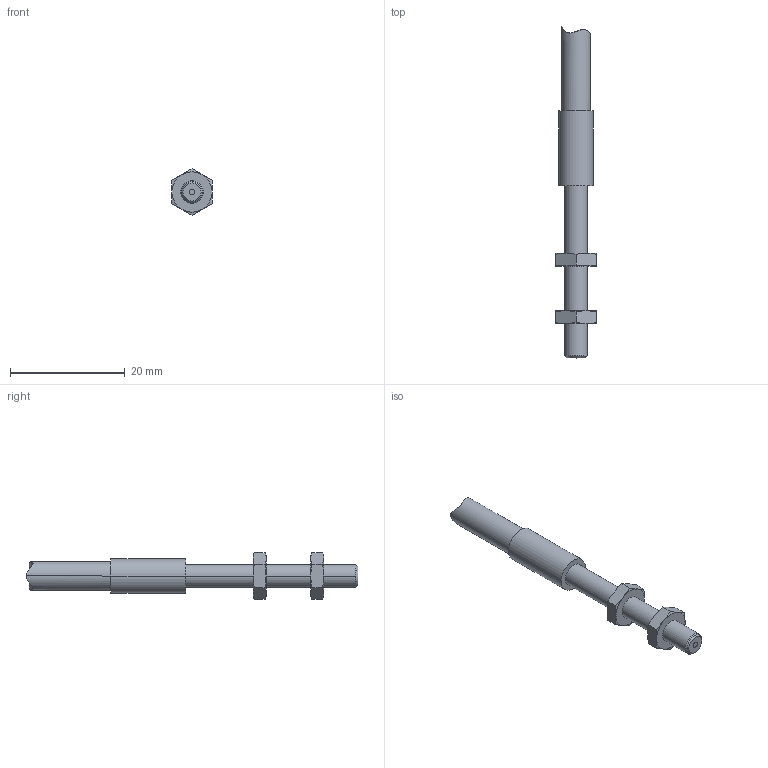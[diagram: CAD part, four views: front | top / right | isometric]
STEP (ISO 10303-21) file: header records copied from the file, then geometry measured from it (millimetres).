
FILE_DESCRIPTION((''),'2;1');
FILE_NAME('0000366373_ASM','2021-03-04T13:30:15',('11000714'),(''),'CREO PARAMETRIC BY PTC INC, 2020184','CREO PARAMETRIC BY PTC INC, 2020184','');
FILE_SCHEMA(('AUTOMOTIVE_DESIGN { 1 0 10303 214 1 1 1 1 }'));
Length unit declared in the file: millimetre
Products named in the file (3): 0000366369; 0000040814; 0000366373_ASM
Assembly tree (3 placements, depth 2):
  0000366373_ASM
    0000366369
    0000040814  x2
Bounding box: 7 x 57.76 x 8.08 mm (x, y, z)
Volume: 1161.1 mm3; surface area: 1564 mm2
Topology: 3 solids, 6 shells, 73 faces, 168 edges, 106 vertices
Faces by surface type: cone 34, plane 20, cylinder 18, extrusion 1
Entity records: 6209 total; most frequent: CARTESIAN_POINT 2427, DIRECTION 309, PROPERTY_DEFINITION 298, REPRESENTATION 294, PROPERTY_DEFINITION_REPRESENTATION 294, DESCRIPTIVE_REPRESENTATION_ITEM 259, GENERAL_PROPERTY 251, GENERAL_PROPERTY_ASSOCIATION 251
